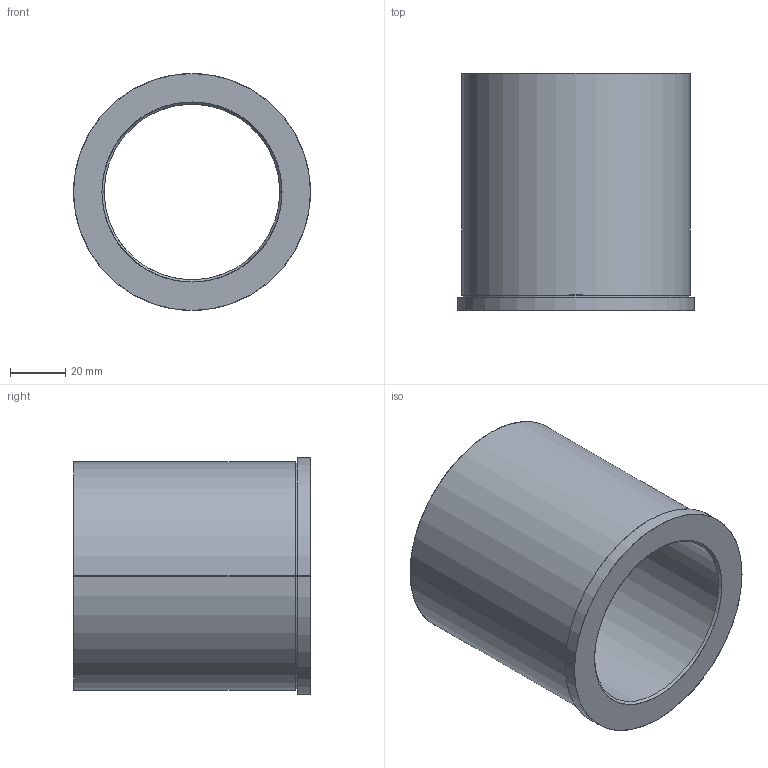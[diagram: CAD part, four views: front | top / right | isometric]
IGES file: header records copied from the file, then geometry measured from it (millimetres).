
Start section: SolidWorks IGES file using analytic representation for surfaces
Global section: file name: C:\Users\Ryan\Documents\PCS\Shoulder Bushings\BU-705.igs; native system: SolidWorks 2009; preprocessor: SolidWorks 2009; author: Ryan; date: 140226.220744; units: inch
Bounding box: 85.72 x 85.72 x 85.72 mm (x, y, z)
Surface area: 44629.9 mm2 (no closed solid volume)
Topology: 0 solids, 0 shells, 16 faces, 560 edges, 560 vertices
Faces by surface type: revolution 10, bspline 6
